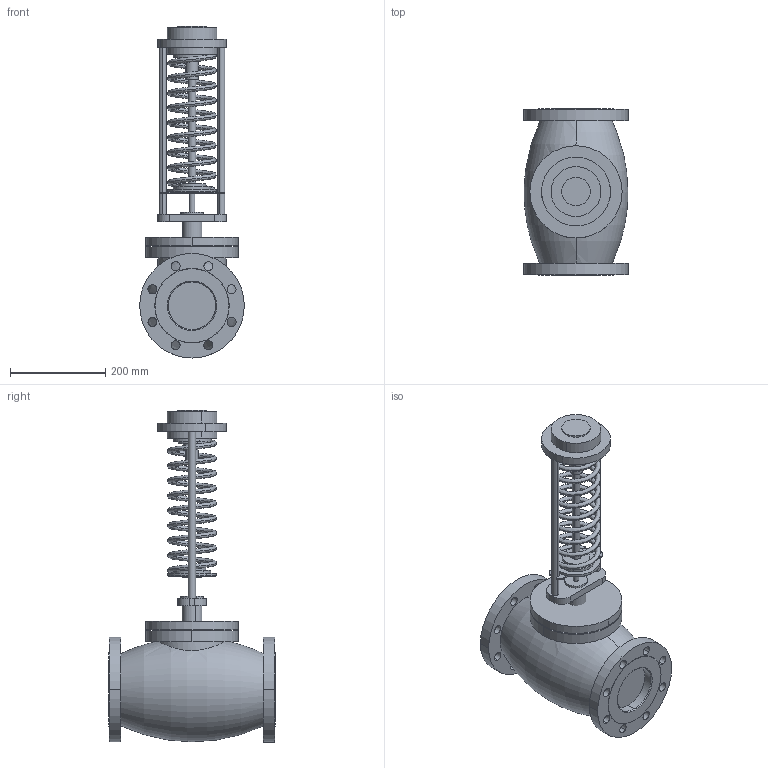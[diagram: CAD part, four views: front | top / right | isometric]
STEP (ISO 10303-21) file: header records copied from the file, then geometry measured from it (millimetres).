
FILE_DESCRIPTION (( 'STEP AP214' ), '1' );
FILE_NAME ('RDT-S, RDT-B DN-100.STEP', '2025-12-12T08:24:16', ( '' ), ( '' ), 'SwSTEP 2.0', 'SolidWorks 2023', '' );
FILE_SCHEMA (( 'AUTOMOTIVE_DESIGN' ));
Length unit declared in the file: millimetre
Products named in the file (4): ______ ___ __ ____ 65-100_2.stp; RDT-S, RDT-B DN-100; RDT DN-100(______)_1.stp; RDT-S, RDT-B DN-100.stp
Assembly tree (3 placements, depth 3):
  RDT-S, RDT-B DN-100
    RDT-S, RDT-B DN-100.stp
      ______ ___ __ ____ 65-100_2.stp
      RDT DN-100(______)_1.stp
Bounding box: 220 x 350 x 698.5 mm (x, y, z)
Volume: 13380644.4 mm3; surface area: 688373.4 mm2
Topology: 2 solids, 3 shells, 187 faces, 442 edges, 285 vertices
Faces by surface type: cylinder 106, plane 51, cone 22, bspline 6, torus 2
Entity records: 10070 total; most frequent: CARTESIAN_POINT 5381, DIRECTION 1054, ORIENTED_EDGE 884, AXIS2_PLACEMENT_3D 444, EDGE_CURVE 442, VERTEX_POINT 285, CIRCLE 256, EDGE_LOOP 251
